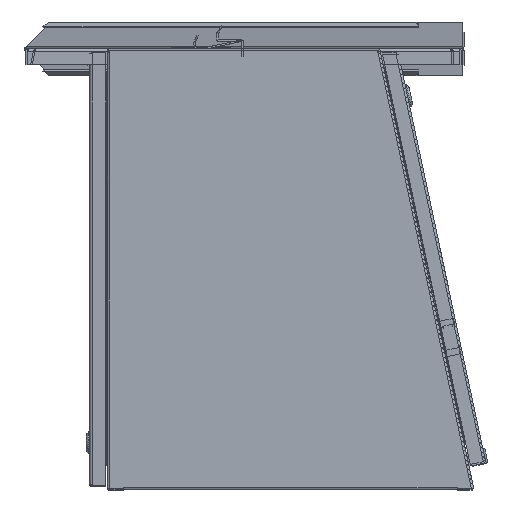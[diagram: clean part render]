
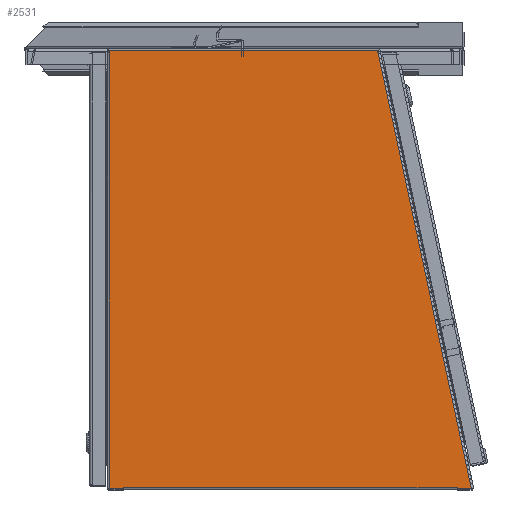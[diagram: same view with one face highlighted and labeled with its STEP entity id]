
A CAD part, left-side view. The second image highlights one B-rep face of the part: STEP entity #2531.
In plain terms, the highlighted planar face has unit normal (-1, 0, 0) as drawn and (0, 0, -1) by its records, which use the part's own axes.
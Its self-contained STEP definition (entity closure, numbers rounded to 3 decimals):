
#2531 = ADVANCED_FACE( '', ( #3570 ), #3571, .T. );
#3570 = FACE_OUTER_BOUND( '', #5675, .T. );
#3571 = PLANE( '', #5676 );
#5675 = EDGE_LOOP( '', ( #10036, #10037, #10038, #10039, #10040, #10041, #10042, #10043, #10044, #10045 ) );
#5676 = AXIS2_PLACEMENT_3D( '', #10046, #10047, #10048 );
#10036 = ORIENTED_EDGE( '', *, *, #15548, .T. );
#10037 = ORIENTED_EDGE( '', *, *, #15445, .F. );
#10038 = ORIENTED_EDGE( '', *, *, #15433, .T. );
#10039 = ORIENTED_EDGE( '', *, *, #15549, .T. );
#10040 = ORIENTED_EDGE( '', *, *, #15547, .F. );
#10041 = ORIENTED_EDGE( '', *, *, #15550, .F. );
#10042 = ORIENTED_EDGE( '', *, *, #15551, .F. );
#10043 = ORIENTED_EDGE( '', *, *, #15523, .F. );
#10044 = ORIENTED_EDGE( '', *, *, #15435, .F. );
#10045 = ORIENTED_EDGE( '', *, *, #15552, .F. );
#10046 = CARTESIAN_POINT( '', ( -211.138, -252.171, 0. ) );
#10047 = DIRECTION( '', ( 0., 0., -1. ) );
#10048 = DIRECTION( '', ( 1., 0., 0. ) );
#15433 = EDGE_CURVE( '', #17529, #17533, #17535, .T. );
#15435 = EDGE_CURVE( '', #17537, #17539, #17540, .T. );
#15445 = EDGE_CURVE( '', #17529, #17552, #17558, .T. );
#15523 = EDGE_CURVE( '', #17539, #17685, #17688, .T. );
#15547 = EDGE_CURVE( '', #17720, #17716, #17722, .T. );
#15548 = EDGE_CURVE( '', #17723, #17552, #17724, .T. );
#15549 = EDGE_CURVE( '', #17533, #17716, #17725, .T. );
#15550 = EDGE_CURVE( '', #17726, #17720, #17727, .T. );
#15551 = EDGE_CURVE( '', #17685, #17726, #17728, .T. );
#15552 = EDGE_CURVE( '', #17723, #17537, #17729, .T. );
#17529 = VERTEX_POINT( '', #21025 );
#17533 = VERTEX_POINT( '', #21031 );
#17535 = LINE( '', #21034, #21035 );
#17537 = VERTEX_POINT( '', #21037 );
#17539 = VERTEX_POINT( '', #21040 );
#17540 = LINE( '', #21041, #21042 );
#17552 = VERTEX_POINT( '', #21058 );
#17558 = LINE( '', #21065, #21066 );
#17685 = VERTEX_POINT( '', #21313 );
#17688 = LINE( '', #21326, #21327 );
#17716 = VERTEX_POINT( '', #21379 );
#17720 = VERTEX_POINT( '', #21385 );
#17722 = LINE( '', #21388, #21389 );
#17723 = VERTEX_POINT( '', #21390 );
#17724 = LINE( '', #21391, #21392 );
#17725 = LINE( '', #21393, #21394 );
#17726 = VERTEX_POINT( '', #21395 );
#17727 = LINE( '', #21396, #21397 );
#17728 = LINE( '', #21398, #21399 );
#17729 = LINE( '', #21400, #21401 );
#21025 = CARTESIAN_POINT( '', ( -191.904, -251.257, 0. ) );
#21031 = CARTESIAN_POINT( '', ( -192.666, -251.257, 0. ) );
#21034 = CARTESIAN_POINT( '', ( -192.666, -251.257, 0. ) );
#21035 = VECTOR( '', #26322, 1000. );
#21037 = CARTESIAN_POINT( '', ( 192.728, -252.171, 0. ) );
#21040 = CARTESIAN_POINT( '', ( 208.394, -252.171, 0. ) );
#21041 = CARTESIAN_POINT( '', ( -211.138, -252.171, 0. ) );
#21042 = VECTOR( '', #26324, 1000. );
#21058 = CARTESIAN_POINT( '', ( 191.966, -251.257, 0. ) );
#21065 = CARTESIAN_POINT( '', ( -191.904, -251.257, 0. ) );
#21066 = VECTOR( '', #26342, 1000. );
#21313 = CARTESIAN_POINT( '', ( 208.394, 252.171, 0. ) );
#21326 = CARTESIAN_POINT( '', ( 208.394, -252.171, 0. ) );
#21327 = VECTOR( '', #26413, 1000. );
#21379 = CARTESIAN_POINT( '', ( -192.666, -252.171, 0. ) );
#21385 = CARTESIAN_POINT( '', ( -208.332, -252.171, 0. ) );
#21388 = CARTESIAN_POINT( '', ( -211.138, -252.171, 0. ) );
#21389 = VECTOR( '', #26436, 1000. );
#21390 = CARTESIAN_POINT( '', ( 192.728, -251.257, 0. ) );
#21391 = CARTESIAN_POINT( '', ( -192.666, -251.257, 0. ) );
#21392 = VECTOR( '', #26437, 1000. );
#21393 = CARTESIAN_POINT( '', ( -192.666, -252.171, 0. ) );
#21394 = VECTOR( '', #26438, 1000. );
#21395 = CARTESIAN_POINT( '', ( -100.382, 252.171, 0. ) );
#21396 = CARTESIAN_POINT( '', ( -100.382, 252.171, 0. ) );
#21397 = VECTOR( '', #26439, 1000. );
#21398 = CARTESIAN_POINT( '', ( 211.138, 252.171, 0. ) );
#21399 = VECTOR( '', #26440, 1000. );
#21400 = CARTESIAN_POINT( '', ( 192.728, -252.171, 0. ) );
#21401 = VECTOR( '', #26441, 1000. );
#26322 = DIRECTION( '', ( -1., 0., 0. ) );
#26324 = DIRECTION( '', ( 1., 0., 0. ) );
#26342 = DIRECTION( '', ( 1., 0., 0. ) );
#26413 = DIRECTION( '', ( 0., 1., 0. ) );
#26436 = DIRECTION( '', ( 1., 0., 0. ) );
#26437 = DIRECTION( '', ( -1., 0., 0. ) );
#26438 = DIRECTION( '', ( 0., -1., 0. ) );
#26439 = DIRECTION( '', ( -0.209, -0.978, 0. ) );
#26440 = DIRECTION( '', ( -1., 0., 0. ) );
#26441 = DIRECTION( '', ( 0., -1., 0. ) );
